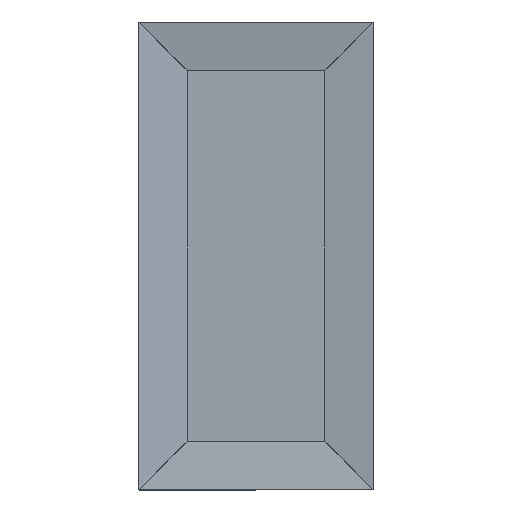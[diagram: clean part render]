
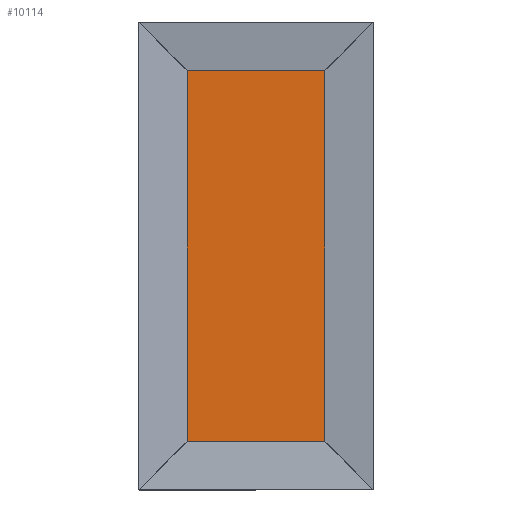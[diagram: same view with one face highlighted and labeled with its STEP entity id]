
A CAD part, top view. The second image highlights one B-rep face of the part: STEP entity #10114.
In plain terms, the highlighted planar face has unit normal (0, 0, 1).
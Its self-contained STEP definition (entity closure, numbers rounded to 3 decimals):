
#9540=CARTESIAN_POINT('',(-294.,-794.0,6.601));
#9541=VERTEX_POINT('',#9540);
#9648=CARTESIAN_POINT('',(-294.,794.0,6.601));
#9649=VERTEX_POINT('',#9648);
#9650=CARTESIAN_POINT('',(-294.,-794.0,6.601));
#9651=DIRECTION('',(0.0,1.0,0.0));
#9652=VECTOR('',#9651,1588.0);
#9653=LINE('',#9650,#9652);
#9654=EDGE_CURVE('',#9541,#9649,#9653,.T.);
#9672=CARTESIAN_POINT('',(294.,-794.0,6.601));
#9673=VERTEX_POINT('',#9672);
#9681=CARTESIAN_POINT('',(294.,-794.0,6.601));
#9682=DIRECTION('',(-1.0,0.0,0.0));
#9683=VECTOR('',#9682,588.);
#9684=LINE('',#9681,#9683);
#9685=EDGE_CURVE('',#9673,#9541,#9684,.T.);
#9796=CARTESIAN_POINT('',(294.0,794.0,6.601));
#9797=VERTEX_POINT('',#9796);
#9805=CARTESIAN_POINT('',(294.,794.0,6.601));
#9806=DIRECTION('',(0.0,-1.0,0.0));
#9807=VECTOR('',#9806,1588.0);
#9808=LINE('',#9805,#9807);
#9809=EDGE_CURVE('',#9797,#9673,#9808,.T.);
#10035=CARTESIAN_POINT('',(-294.,794.0,6.601));
#10036=DIRECTION('',(1.0,0.0,0.0));
#10037=VECTOR('',#10036,588.);
#10038=LINE('',#10035,#10037);
#10039=EDGE_CURVE('',#9649,#9797,#10038,.T.);
#10103=CARTESIAN_POINT('',(0.,0.,6.601));
#10104=DIRECTION('',(0.0,0.0,1.0));
#10105=DIRECTION('',(1.0,0.0,0.0));
#10106=AXIS2_PLACEMENT_3D('',#10103,#10104,#10105);
#10107=PLANE('',#10106);
#10108=ORIENTED_EDGE('',*,*,#10039,.F.);
#10109=ORIENTED_EDGE('',*,*,#9654,.F.);
#10110=ORIENTED_EDGE('',*,*,#9685,.F.);
#10111=ORIENTED_EDGE('',*,*,#9809,.F.);
#10112=EDGE_LOOP('',(#10108,#10109,#10110,#10111));
#10113=FACE_OUTER_BOUND('',#10112,.T.);
#10114=ADVANCED_FACE('',(#10113),#10107,.T.);
